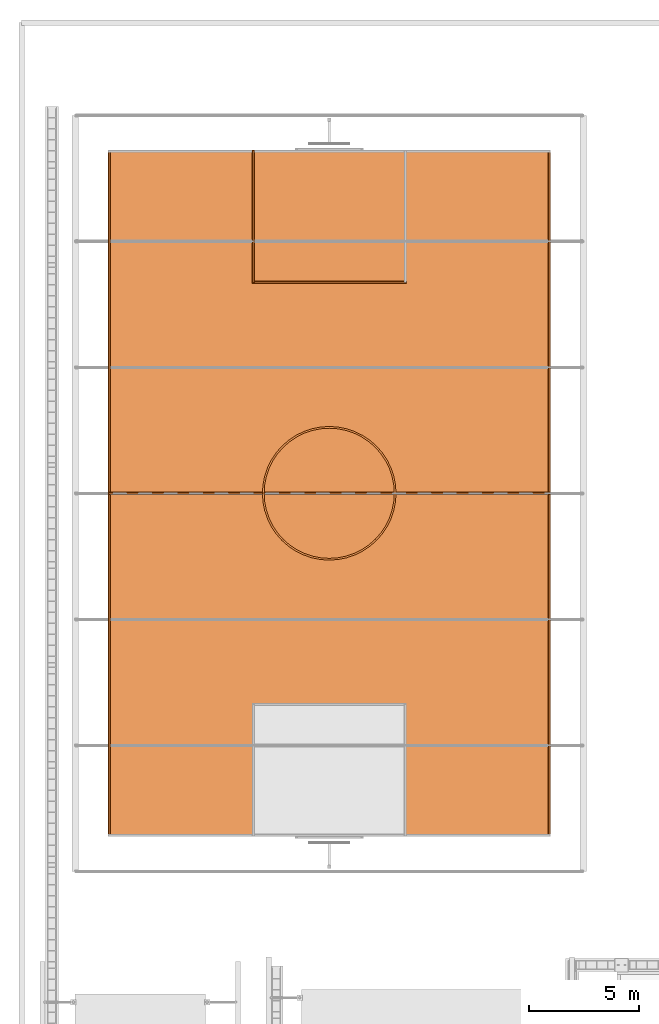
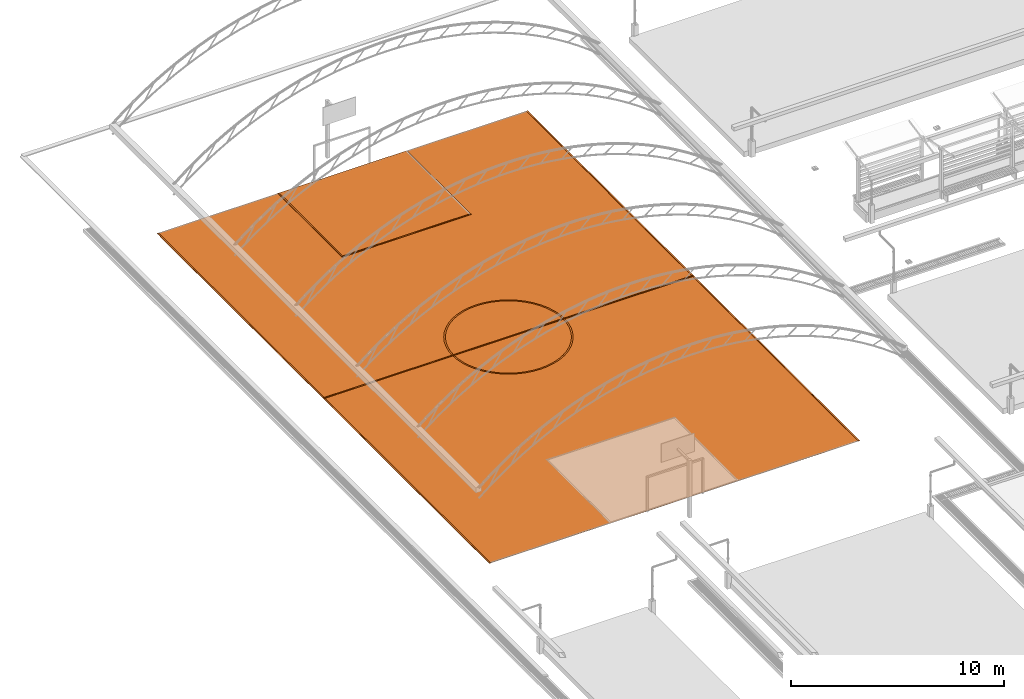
# One storey, part 89 of 90: 8 proxies.
"""IFC2X3 building model written with IfcOpenShell, lengths in metres."""

from ifc_helpers import new_model, si_unit, origin, origin_with_axes, place, context, subcontext, project, spatial, faceted_brep, element, save


model = new_model("IFC2X3")

# Units and contexts
model_context = context("Model", 3, precision=1e-05, world=origin_with_axes())
body_context = subcontext(model_context, "Body", "Model", "MODEL_VIEW")
ifc_project = project(units=[si_unit("LENGTHUNIT", "METRE"), si_unit("AREAUNIT", "SQUARE_METRE"), si_unit("VOLUMEUNIT", "CUBIC_METRE"), si_unit("PLANEANGLEUNIT", "RADIAN")], contexts=[model_context])

# Site, building, storey
site_placement = place(None, origin_with_axes())
site = spatial("IfcSite", under=ifc_project, at=site_placement, Name="Predio Los Mangos - Morales, San Martín", CompositionType="ELEMENT")
building_placement = place(site_placement, origin())
building = spatial("IfcBuilding", under=site, at=building_placement, Name="Hogar de Refugio Temporal", CompositionType="ELEMENT")
storey_placement = place(building_placement, origin())
storey = spatial("IfcBuildingStorey", under=building, at=storey_placement, Name="NIVEL 1 (NPT +0.00)", CompositionType="ELEMENT", Elevation=0.0)

# Proxies
proxy_1_placement = place(storey_placement, origin())
element("IfcBuildingElementProxy", 1, at=proxy_1_placement, inside=storey, Name="cancha", ObjectType="Losa deportiva y vía", context=body_context, shape_type="Brep", body=[
    faceted_brep([(5.0, 94.2, 0.12), (5.0, 125.4, 0.12), (25.1, 125.4, 0.12), (25.1, 94.2, 0.12), (5.0, 94.2, 0.125), (25.1, 94.2, 0.125), (25.1, 125.4, 0.125), (5.0, 125.4, 0.125)], [[[0, 1, 2, 3]], [[4, 5, 6, 7]], [[0, 3, 5, 4]], [[3, 2, 6, 5]], [[2, 1, 7, 6]], [[1, 0, 4, 7]]]),
])
proxy_2_placement = place(storey_placement, origin())
element("IfcBuildingElementProxy", 2, at=proxy_2_placement, inside=storey, Name="linea_cancha", ObjectType="Losa deportiva y vía", context=body_context, shape_type="Brep", body=[
    faceted_brep([(5.0, 94.2, 0.125), (5.0, 125.4, 0.125), (5.08, 125.4, 0.125), (5.08, 94.2, 0.125), (5.0, 94.2, 0.127), (5.08, 94.2, 0.127), (5.08, 125.4, 0.127), (5.0, 125.4, 0.127)], [[[0, 1, 2, 3]], [[4, 5, 6, 7]], [[0, 3, 5, 4]], [[3, 2, 6, 5]], [[2, 1, 7, 6]], [[1, 0, 4, 7]]]),
])
proxy_3_placement = place(storey_placement, origin())
element("IfcBuildingElementProxy", 3, at=proxy_3_placement, inside=storey, Name="linea_cancha", ObjectType="Losa deportiva y vía", context=body_context, shape_type="Brep", body=[
    faceted_brep([(25.02, 94.2, 0.125), (25.02, 125.4, 0.125), (25.1, 125.4, 0.125), (25.1, 94.2, 0.125), (25.02, 94.2, 0.127), (25.1, 94.2, 0.127), (25.1, 125.4, 0.127), (25.02, 125.4, 0.127)], [[[0, 1, 2, 3]], [[4, 5, 6, 7]], [[0, 3, 5, 4]], [[3, 2, 6, 5]], [[2, 1, 7, 6]], [[1, 0, 4, 7]]]),
])
proxy_4_placement = place(storey_placement, origin())
element("IfcBuildingElementProxy", 4, at=proxy_4_placement, inside=storey, Name="linea_cancha", ObjectType="Losa deportiva y vía", context=body_context, shape_type="Brep", body=[
    faceted_brep([(5.0, 109.76, 0.125), (5.0, 109.84, 0.125), (25.1, 109.84, 0.125), (25.1, 109.76, 0.125), (5.0, 109.76, 0.127), (25.1, 109.76, 0.127), (25.1, 109.84, 0.127), (5.0, 109.84, 0.127)], [[[0, 1, 2, 3]], [[4, 5, 6, 7]], [[0, 3, 5, 4]], [[3, 2, 6, 5]], [[2, 1, 7, 6]], [[1, 0, 4, 7]]]),
])
proxy_5_placement = place(storey_placement, origin())
element("IfcBuildingElementProxy", 5, at=proxy_5_placement, inside=storey, Name="Torus", ObjectType="Elemento", context=body_context, shape_type="Brep", body=[
    faceted_brep([(18.09, 109.8, 0.125), (18.064, 110.1968, 0.125), (18.0587, 110.1961, 0.126), (18.0846, 109.8, 0.126), (18.0442, 110.1942, 0.1267), (18.07, 109.8, 0.1267), (18.0243, 110.1916, 0.127), (18.05, 109.8, 0.127), (18.0045, 110.189, 0.1267), (18.03, 109.8, 0.1267), (17.99, 110.1871, 0.126), (18.0154, 109.8, 0.126), (17.9847, 110.1864, 0.125), (18.01, 109.8, 0.125), (17.99, 110.1871, 0.124), (18.0154, 109.8, 0.124), (18.0045, 110.189, 0.1233), (18.03, 109.8, 0.1233), (18.0243, 110.1916, 0.123), (18.05, 109.8, 0.123), (18.0442, 110.1942, 0.1233), (18.07, 109.8, 0.1233), (18.0587, 110.1961, 0.124), (18.0846, 109.8, 0.124), (17.9864, 110.5868, 0.125), (17.9812, 110.5854, 0.126), (17.9671, 110.5816, 0.1267), (17.9478, 110.5765, 0.127), (17.9285, 110.5713, 0.1267), (17.9143, 110.5675, 0.126), (17.9091, 110.5661, 0.125), (17.9143, 110.5675, 0.124), (17.9285, 110.5713, 0.1233), (17.9478, 110.5765, 0.123), (17.9671, 110.5816, 0.1233), (17.9812, 110.5854, 0.124), (17.8586, 110.9634, 0.125), (17.8536, 110.9613, 0.126), (17.8401, 110.9557, 0.1267), (17.8216, 110.9481, 0.127), (17.8032, 110.9404, 0.1267), (17.7896, 110.9348, 0.126), (17.7847, 110.9327, 0.125), (17.7896, 110.9348, 0.124), (17.8032, 110.9404, 0.1233), (17.8216, 110.9481, 0.123), (17.8401, 110.9557, 0.1233), (17.8536, 110.9613, 0.124), (17.6827, 111.32, 0.125), (17.6781, 111.3173, 0.126), (17.6654, 111.31, 0.1267), (17.6481, 111.3, 0.127), (17.6308, 111.29, 0.1267), (17.6181, 111.2827, 0.126), (17.6134, 111.28, 0.125), (17.6181, 111.2827, 0.124), (17.6308, 111.29, 0.1233), (17.6481, 111.3, 0.123), (17.6654, 111.31, 0.1233), (17.6781, 111.3173, 0.124), (17.4618, 111.6506, 0.125), (17.4575, 111.6474, 0.126), (17.4459, 111.6385, 0.1267), (17.4301, 111.6263, 0.127), (17.4142, 111.6141, 0.1267), (17.4026, 111.6052, 0.126), (17.3983, 111.6019, 0.125), (17.4026, 111.6052, 0.124), (17.4142, 111.6141, 0.1233), (17.4301, 111.6263, 0.123), (17.4459, 111.6385, 0.1233), (17.4575, 111.6474, 0.124), (17.1996, 111.9496, 0.125), (17.1958, 111.9458, 0.126), (17.1855, 111.9355, 0.1267), (17.1713, 111.9213, 0.127), (17.1572, 111.9072, 0.1267), (17.1468, 111.8968, 0.126), (17.143, 111.893, 0.125), (17.1468, 111.8968, 0.124), (17.1572, 111.9072, 0.1233), (17.1713, 111.9213, 0.123), (17.1855, 111.9355, 0.1233), (17.1958, 111.9458, 0.124), (16.9006, 112.2118, 0.125), (16.8974, 112.2075, 0.126), (16.8885, 112.1959, 0.1267), (16.8763, 112.1801, 0.127), (16.8641, 112.1642, 0.1267), (16.8552, 112.1526, 0.126), (16.8519, 112.1483, 0.125), (16.8552, 112.1526, 0.124), (16.8641, 112.1642, 0.1233), (16.8763, 112.1801, 0.123), (16.8885, 112.1959, 0.1233), (16.8974, 112.2075, 0.124), (16.57, 112.4327, 0.125), (16.5673, 112.4281, 0.126), (16.56, 112.4154, 0.1267), (16.55, 112.3981, 0.127), (16.54, 112.3808, 0.1267), (16.5327, 112.3681, 0.126), (16.53, 112.3634, 0.125), (16.5327, 112.3681, 0.124), (16.54, 112.3808, 0.1233), (16.55, 112.3981, 0.123), (16.56, 112.4154, 0.1233), (16.5673, 112.4281, 0.124), (16.2134, 112.6086, 0.125), (16.2113, 112.6036, 0.126), (16.2057, 112.5901, 0.1267), (16.1981, 112.5716, 0.127), (16.1904, 112.5532, 0.1267), (16.1848, 112.5396, 0.126), (16.1827, 112.5347, 0.125), (16.1848, 112.5396, 0.124), (16.1904, 112.5532, 0.1233), (16.1981, 112.5716, 0.123), (16.2057, 112.5901, 0.1233), (16.2113, 112.6036, 0.124), (15.8368, 112.7364, 0.125), (15.8354, 112.7312, 0.126), (15.8316, 112.7171, 0.1267), (15.8265, 112.6978, 0.127), (15.8213, 112.6785, 0.1267), (15.8175, 112.6643, 0.126), (15.8161, 112.6591, 0.125), (15.8175, 112.6643, 0.124), (15.8213, 112.6785, 0.1233), (15.8265, 112.6978, 0.123), (15.8316, 112.7171, 0.1233), (15.8354, 112.7312, 0.124), (15.4468, 112.814, 0.125), (15.4461, 112.8087, 0.126), (15.4442, 112.7942, 0.1267), (15.4416, 112.7743, 0.127), (15.439, 112.7545, 0.1267), (15.4371, 112.74, 0.126), (15.4364, 112.7347, 0.125), (15.4371, 112.74, 0.124), (15.439, 112.7545, 0.1233), (15.4416, 112.7743, 0.123), (15.4442, 112.7942, 0.1233), (15.4461, 112.8087, 0.124), (15.05, 112.84, 0.125), (15.05, 112.8346, 0.126), (15.05, 112.82, 0.1267), (15.05, 112.8, 0.127), (15.05, 112.78, 0.1267), (15.05, 112.7654, 0.126), (15.05, 112.76, 0.125), (15.05, 112.7654, 0.124), (15.05, 112.78, 0.1233), (15.05, 112.8, 0.123), (15.05, 112.82, 0.1233), (15.05, 112.8346, 0.124), (14.6532, 112.814, 0.125), (14.6539, 112.8087, 0.126), (14.6558, 112.7942, 0.1267), (14.6584, 112.7743, 0.127), (14.661, 112.7545, 0.1267), (14.6629, 112.74, 0.126), (14.6636, 112.7347, 0.125), (14.6629, 112.74, 0.124), (14.661, 112.7545, 0.1233), (14.6584, 112.7743, 0.123), (14.6558, 112.7942, 0.1233), (14.6539, 112.8087, 0.124), (14.2632, 112.7364, 0.125), (14.2646, 112.7312, 0.126), (14.2684, 112.7171, 0.1267), (14.2735, 112.6978, 0.127), (14.2787, 112.6785, 0.1267), (14.2825, 112.6643, 0.126), (14.2839, 112.6591, 0.125), (14.2825, 112.6643, 0.124), (14.2787, 112.6785, 0.1233), (14.2735, 112.6978, 0.123), (14.2684, 112.7171, 0.1233), (14.2646, 112.7312, 0.124), (13.8866, 112.6086, 0.125), (13.8887, 112.6036, 0.126), (13.8943, 112.5901, 0.1267), (13.9019, 112.5716, 0.127), (13.9096, 112.5532, 0.1267), (13.9152, 112.5396, 0.126), (13.9173, 112.5347, 0.125), (13.9152, 112.5396, 0.124), (13.9096, 112.5532, 0.1233), (13.9019, 112.5716, 0.123), (13.8943, 112.5901, 0.1233), (13.8887, 112.6036, 0.124), (13.53, 112.4327, 0.125), (13.5327, 112.4281, 0.126), (13.54, 112.4154, 0.1267), (13.55, 112.3981, 0.127), (13.56, 112.3808, 0.1267), (13.5673, 112.3681, 0.126), (13.57, 112.3634, 0.125), (13.5673, 112.3681, 0.124), (13.56, 112.3808, 0.1233), (13.55, 112.3981, 0.123), (13.54, 112.4154, 0.1233), (13.5327, 112.4281, 0.124), (13.1994, 112.2118, 0.125), (13.2026, 112.2075, 0.126), (13.2115, 112.1959, 0.1267), (13.2237, 112.1801, 0.127), (13.2359, 112.1642, 0.1267), (13.2448, 112.1526, 0.126), (13.2481, 112.1483, 0.125), (13.2448, 112.1526, 0.124), (13.2359, 112.1642, 0.1233), (13.2237, 112.1801, 0.123), (13.2115, 112.1959, 0.1233), (13.2026, 112.2075, 0.124), (12.9004, 111.9496, 0.125), (12.9042, 111.9458, 0.126), (12.9145, 111.9355, 0.1267), (12.9287, 111.9213, 0.127), (12.9428, 111.9072, 0.1267), (12.9532, 111.8968, 0.126), (12.957, 111.893, 0.125), (12.9532, 111.8968, 0.124), (12.9428, 111.9072, 0.1233), (12.9287, 111.9213, 0.123), (12.9145, 111.9355, 0.1233), (12.9042, 111.9458, 0.124), (12.6382, 111.6506, 0.125), (12.6425, 111.6474, 0.126), (12.6541, 111.6385, 0.1267), (12.6699, 111.6263, 0.127), (12.6858, 111.6141, 0.1267), (12.6974, 111.6052, 0.126), (12.7017, 111.6019, 0.125), (12.6974, 111.6052, 0.124), (12.6858, 111.6141, 0.1233), (12.6699, 111.6263, 0.123), (12.6541, 111.6385, 0.1233), (12.6425, 111.6474, 0.124), (12.4173, 111.32, 0.125), (12.4219, 111.3173, 0.126), (12.4346, 111.31, 0.1267), (12.4519, 111.3, 0.127), (12.4692, 111.29, 0.1267), (12.4819, 111.2827, 0.126), (12.4866, 111.28, 0.125), (12.4819, 111.2827, 0.124), (12.4692, 111.29, 0.1233), (12.4519, 111.3, 0.123), (12.4346, 111.31, 0.1233), (12.4219, 111.3173, 0.124), (12.2414, 110.9634, 0.125), (12.2464, 110.9613, 0.126), (12.2599, 110.9557, 0.1267), (12.2784, 110.9481, 0.127), (12.2968, 110.9404, 0.1267), (12.3104, 110.9348, 0.126), (12.3153, 110.9327, 0.125), (12.3104, 110.9348, 0.124), (12.2968, 110.9404, 0.1233), (12.2784, 110.9481, 0.123), (12.2599, 110.9557, 0.1233), (12.2464, 110.9613, 0.124), (12.1136, 110.5868, 0.125), (12.1188, 110.5854, 0.126), (12.1329, 110.5816, 0.1267), (12.1522, 110.5765, 0.127), (12.1715, 110.5713, 0.1267), (12.1857, 110.5675, 0.126), (12.1909, 110.5661, 0.125), (12.1857, 110.5675, 0.124), (12.1715, 110.5713, 0.1233), (12.1522, 110.5765, 0.123), (12.1329, 110.5816, 0.1233), (12.1188, 110.5854, 0.124), (12.036, 110.1968, 0.125), (12.0413, 110.1961, 0.126), (12.0558, 110.1942, 0.1267), (12.0757, 110.1916, 0.127), (12.0955, 110.189, 0.1267), (12.11, 110.1871, 0.126), (12.1153, 110.1864, 0.125), (12.11, 110.1871, 0.124), (12.0955, 110.189, 0.1233), (12.0757, 110.1916, 0.123), (12.0558, 110.1942, 0.1233), (12.0413, 110.1961, 0.124), (12.01, 109.8, 0.125), (12.0154, 109.8, 0.126), (12.03, 109.8, 0.1267), (12.05, 109.8, 0.127), (12.07, 109.8, 0.1267), (12.0846, 109.8, 0.126), (12.09, 109.8, 0.125), (12.0846, 109.8, 0.124), (12.07, 109.8, 0.1233), (12.05, 109.8, 0.123), (12.03, 109.8, 0.1233), (12.0154, 109.8, 0.124), (12.036, 109.4032, 0.125), (12.0413, 109.4039, 0.126), (12.0558, 109.4058, 0.1267), (12.0757, 109.4084, 0.127), (12.0955, 109.411, 0.1267), (12.11, 109.4129, 0.126), (12.1153, 109.4136, 0.125), (12.11, 109.4129, 0.124), (12.0955, 109.411, 0.1233), (12.0757, 109.4084, 0.123), (12.0558, 109.4058, 0.1233), (12.0413, 109.4039, 0.124), (12.1136, 109.0132, 0.125), (12.1188, 109.0146, 0.126), (12.1329, 109.0184, 0.1267), (12.1522, 109.0235, 0.127), (12.1715, 109.0287, 0.1267), (12.1857, 109.0325, 0.126), (12.1909, 109.0339, 0.125), (12.1857, 109.0325, 0.124), (12.1715, 109.0287, 0.1233), (12.1522, 109.0235, 0.123), (12.1329, 109.0184, 0.1233), (12.1188, 109.0146, 0.124), (12.2414, 108.6367, 0.125), (12.2464, 108.6387, 0.126), (12.2599, 108.6443, 0.1267), (12.2784, 108.652, 0.127), (12.2968, 108.6596, 0.1267), (12.3104, 108.6652, 0.126), (12.3153, 108.6673, 0.125), (12.3104, 108.6652, 0.124), (12.2968, 108.6596, 0.1233), (12.2784, 108.652, 0.123), (12.2599, 108.6443, 0.1233), (12.2464, 108.6387, 0.124), (12.4173, 108.28, 0.125), (12.4219, 108.2827, 0.126), (12.4346, 108.29, 0.1267), (12.4519, 108.3, 0.127), (12.4692, 108.31, 0.1267), (12.4819, 108.3173, 0.126), (12.4866, 108.32, 0.125), (12.4819, 108.3173, 0.124), (12.4692, 108.31, 0.1233), (12.4519, 108.3, 0.123), (12.4346, 108.29, 0.1233), (12.4219, 108.2827, 0.124), (12.6382, 107.9494, 0.125), (12.6425, 107.9526, 0.126), (12.6541, 107.9615, 0.1267), (12.6699, 107.9737, 0.127), (12.6858, 107.9859, 0.1267), (12.6974, 107.9948, 0.126), (12.7017, 107.9981, 0.125), (12.6974, 107.9948, 0.124), (12.6858, 107.9859, 0.1233), (12.6699, 107.9737, 0.123), (12.6541, 107.9615, 0.1233), (12.6425, 107.9526, 0.124), (12.9004, 107.6504, 0.125), (12.9042, 107.6542, 0.126), (12.9145, 107.6645, 0.1267), (12.9287, 107.6787, 0.127), (12.9428, 107.6928, 0.1267), (12.9532, 107.7032, 0.126), (12.957, 107.707, 0.125), (12.9532, 107.7032, 0.124), (12.9428, 107.6928, 0.1233), (12.9287, 107.6787, 0.123), (12.9145, 107.6645, 0.1233), (12.9042, 107.6542, 0.124), (13.1994, 107.3882, 0.125), (13.2026, 107.3925, 0.126), (13.2115, 107.4041, 0.1267), (13.2237, 107.4199, 0.127), (13.2359, 107.4358, 0.1267), (13.2448, 107.4474, 0.126), (13.2481, 107.4517, 0.125), (13.2448, 107.4474, 0.124), (13.2359, 107.4358, 0.1233), (13.2237, 107.4199, 0.123), (13.2115, 107.4041, 0.1233), (13.2026, 107.3925, 0.124), (13.53, 107.1673, 0.125), (13.5327, 107.1719, 0.126), (13.54, 107.1846, 0.1267), (13.55, 107.2019, 0.127), (13.56, 107.2192, 0.1267), (13.5673, 107.2319, 0.126), (13.57, 107.2366, 0.125), (13.5673, 107.2319, 0.124), (13.56, 107.2192, 0.1233), (13.55, 107.2019, 0.123), (13.54, 107.1846, 0.1233), (13.5327, 107.1719, 0.124), (13.8866, 106.9914, 0.125), (13.8887, 106.9964, 0.126), (13.8943, 107.0099, 0.1267), (13.9019, 107.0284, 0.127), (13.9096, 107.0468, 0.1267), (13.9152, 107.0604, 0.126), (13.9173, 107.0653, 0.125), (13.9152, 107.0604, 0.124), (13.9096, 107.0468, 0.1233), (13.9019, 107.0284, 0.123), (13.8943, 107.0099, 0.1233), (13.8887, 106.9964, 0.124), (14.2632, 106.8636, 0.125), (14.2646, 106.8688, 0.126), (14.2684, 106.8829, 0.1267), (14.2735, 106.9022, 0.127), (14.2787, 106.9215, 0.1267), (14.2825, 106.9357, 0.126), (14.2839, 106.9409, 0.125), (14.2825, 106.9357, 0.124), (14.2787, 106.9215, 0.1233), (14.2735, 106.9022, 0.123), (14.2684, 106.8829, 0.1233), (14.2646, 106.8688, 0.124), (14.6532, 106.786, 0.125), (14.6539, 106.7913, 0.126), (14.6558, 106.8058, 0.1267), (14.6584, 106.8257, 0.127), (14.661, 106.8455, 0.1267), (14.6629, 106.86, 0.126), (14.6636, 106.8653, 0.125), (14.6629, 106.86, 0.124), (14.661, 106.8455, 0.1233), (14.6584, 106.8257, 0.123), (14.6558, 106.8058, 0.1233), (14.6539, 106.7913, 0.124), (15.05, 106.76, 0.125), (15.05, 106.7654, 0.126), (15.05, 106.78, 0.1267), (15.05, 106.8, 0.127), (15.05, 106.82, 0.1267), (15.05, 106.8346, 0.126), (15.05, 106.84, 0.125), (15.05, 106.8346, 0.124), (15.05, 106.82, 0.1233), (15.05, 106.8, 0.123), (15.05, 106.78, 0.1233), (15.05, 106.7654, 0.124), (15.4468, 106.786, 0.125), (15.4461, 106.7913, 0.126), (15.4442, 106.8058, 0.1267), (15.4416, 106.8257, 0.127), (15.439, 106.8455, 0.1267), (15.4371, 106.86, 0.126), (15.4364, 106.8653, 0.125), (15.4371, 106.86, 0.124), (15.439, 106.8455, 0.1233), (15.4416, 106.8257, 0.123), (15.4442, 106.8058, 0.1233), (15.4461, 106.7913, 0.124), (15.8368, 106.8636, 0.125), (15.8354, 106.8688, 0.126), (15.8316, 106.8829, 0.1267), (15.8265, 106.9022, 0.127), (15.8213, 106.9215, 0.1267), (15.8175, 106.9357, 0.126), (15.8161, 106.9409, 0.125), (15.8175, 106.9357, 0.124), (15.8213, 106.9215, 0.1233), (15.8265, 106.9022, 0.123), (15.8316, 106.8829, 0.1233), (15.8354, 106.8688, 0.124), (16.2134, 106.9914, 0.125), (16.2113, 106.9964, 0.126), (16.2057, 107.0099, 0.1267), (16.1981, 107.0284, 0.127), (16.1904, 107.0468, 0.1267), (16.1848, 107.0604, 0.126), (16.1827, 107.0653, 0.125), (16.1848, 107.0604, 0.124), (16.1904, 107.0468, 0.1233), (16.1981, 107.0284, 0.123), (16.2057, 107.0099, 0.1233), (16.2113, 106.9964, 0.124), (16.57, 107.1673, 0.125), (16.5673, 107.1719, 0.126), (16.56, 107.1846, 0.1267), (16.55, 107.2019, 0.127), (16.54, 107.2192, 0.1267), (16.5327, 107.2319, 0.126), (16.53, 107.2366, 0.125), (16.5327, 107.2319, 0.124), (16.54, 107.2192, 0.1233), (16.55, 107.2019, 0.123), (16.56, 107.1846, 0.1233), (16.5673, 107.1719, 0.124), (16.9006, 107.3882, 0.125), (16.8974, 107.3925, 0.126), (16.8885, 107.4041, 0.1267), (16.8763, 107.4199, 0.127), (16.8641, 107.4358, 0.1267), (16.8552, 107.4474, 0.126), (16.8519, 107.4517, 0.125), (16.8552, 107.4474, 0.124), (16.8641, 107.4358, 0.1233), (16.8763, 107.4199, 0.123), (16.8885, 107.4041, 0.1233), (16.8974, 107.3925, 0.124), (17.1996, 107.6504, 0.125), (17.1958, 107.6542, 0.126), (17.1855, 107.6645, 0.1267), (17.1713, 107.6787, 0.127), (17.1572, 107.6928, 0.1267), (17.1468, 107.7032, 0.126), (17.143, 107.707, 0.125), (17.1468, 107.7032, 0.124), (17.1572, 107.6928, 0.1233), (17.1713, 107.6787, 0.123), (17.1855, 107.6645, 0.1233), (17.1958, 107.6542, 0.124), (17.4618, 107.9494, 0.125), (17.4575, 107.9526, 0.126), (17.4459, 107.9615, 0.1267), (17.4301, 107.9737, 0.127), (17.4142, 107.9859, 0.1267), (17.4026, 107.9948, 0.126), (17.3983, 107.9981, 0.125), (17.4026, 107.9948, 0.124), (17.4142, 107.9859, 0.1233), (17.4301, 107.9737, 0.123), (17.4459, 107.9615, 0.1233), (17.4575, 107.9526, 0.124), (17.6827, 108.28, 0.125), (17.6781, 108.2827, 0.126), (17.6654, 108.29, 0.1267), (17.6481, 108.3, 0.127), (17.6308, 108.31, 0.1267), (17.6181, 108.3173, 0.126), (17.6134, 108.32, 0.125), (17.6181, 108.3173, 0.124), (17.6308, 108.31, 0.1233), (17.6481, 108.3, 0.123), (17.6654, 108.29, 0.1233), (17.6781, 108.2827, 0.124), (17.8586, 108.6366, 0.125), (17.8536, 108.6387, 0.126), (17.8401, 108.6443, 0.1267), (17.8216, 108.652, 0.127), (17.8032, 108.6596, 0.1267), (17.7896, 108.6652, 0.126), (17.7847, 108.6673, 0.125), (17.7896, 108.6652, 0.124), (17.8032, 108.6596, 0.1233), (17.8216, 108.652, 0.123), (17.8401, 108.6443, 0.1233), (17.8536, 108.6387, 0.124), (17.9864, 109.0132, 0.125), (17.9812, 109.0146, 0.126), (17.9671, 109.0184, 0.1267), (17.9478, 109.0235, 0.127), (17.9285, 109.0287, 0.1267), (17.9143, 109.0325, 0.126), (17.9091, 109.0339, 0.125), (17.9143, 109.0325, 0.124), (17.9285, 109.0287, 0.1233), (17.9478, 109.0235, 0.123), (17.9671, 109.0184, 0.1233), (17.9812, 109.0146, 0.124), (18.064, 109.4032, 0.125), (18.0587, 109.4039, 0.126), (18.0442, 109.4058, 0.1267), (18.0243, 109.4084, 0.127), (18.0045, 109.411, 0.1267), (17.99, 109.4129, 0.126), (17.9847, 109.4136, 0.125), (17.99, 109.4129, 0.124), (18.0045, 109.411, 0.1233), (18.0243, 109.4084, 0.123), (18.0442, 109.4058, 0.1233), (18.0587, 109.4039, 0.124)], [[[0, 1, 2, 3]], [[3, 2, 4, 5]], [[5, 4, 6, 7]], [[7, 6, 8, 9]], [[9, 8, 10, 11]], [[11, 10, 12, 13]], [[13, 12, 14, 15]], [[15, 14, 16, 17]], [[17, 16, 18, 19]], [[19, 18, 20, 21]], [[21, 20, 22, 23]], [[23, 22, 1, 0]], [[1, 24, 25, 2]], [[2, 25, 26, 4]], [[4, 26, 27, 6]], [[6, 27, 28, 8]], [[8, 28, 29, 10]], [[10, 29, 30, 12]], [[12, 30, 31, 14]], [[14, 31, 32, 16]], [[16, 32, 33, 18]], [[18, 33, 34, 20]], [[20, 34, 35, 22]], [[22, 35, 24, 1]], [[24, 36, 37, 25]], [[25, 37, 38, 26]], [[26, 38, 39, 27]], [[27, 39, 40, 28]], [[28, 40, 41, 29]], [[29, 41, 42, 30]], [[30, 42, 43, 31]], [[31, 43, 44, 32]], [[32, 44, 45, 33]], [[33, 45, 46, 34]], [[34, 46, 47, 35]], [[35, 47, 36, 24]], [[36, 48, 49, 37]], [[37, 49, 50, 38]], [[38, 50, 51, 39]], [[39, 51, 52, 40]], [[40, 52, 53, 41]], [[41, 53, 54, 42]], [[42, 54, 55, 43]], [[43, 55, 56, 44]], [[44, 56, 57, 45]], [[45, 57, 58, 46]], [[46, 58, 59, 47]], [[47, 59, 48, 36]], [[48, 60, 61, 49]], [[49, 61, 62, 50]], [[50, 62, 63, 51]], [[51, 63, 64, 52]], [[52, 64, 65, 53]], [[53, 65, 66, 54]], [[54, 66, 67, 55]], [[55, 67, 68, 56]], [[56, 68, 69, 57]], [[57, 69, 70, 58]], [[58, 70, 71, 59]], [[59, 71, 60, 48]], [[60, 72, 73, 61]], [[61, 73, 74, 62]], [[62, 74, 75, 63]], [[63, 75, 76, 64]], [[64, 76, 77, 65]], [[65, 77, 78, 66]], [[66, 78, 79, 67]], [[67, 79, 80, 68]], [[68, 80, 81, 69]], [[69, 81, 82, 70]], [[70, 82, 83, 71]], [[71, 83, 72, 60]], [[72, 84, 85, 73]], [[73, 85, 86, 74]], [[74, 86, 87, 75]], [[75, 87, 88, 76]], [[76, 88, 89, 77]], [[77, 89, 90, 78]], [[78, 90, 91, 79]], [[79, 91, 92, 80]], [[80, 92, 93, 81]], [[81, 93, 94, 82]], [[82, 94, 95, 83]], [[83, 95, 84, 72]], [[84, 96, 97, 85]], [[85, 97, 98, 86]], [[86, 98, 99, 87]], [[87, 99, 100, 88]], [[88, 100, 101, 89]], [[89, 101, 102, 90]], [[90, 102, 103, 91]], [[91, 103, 104, 92]], [[92, 104, 105, 93]], [[93, 105, 106, 94]], [[94, 106, 107, 95]], [[95, 107, 96, 84]], [[96, 108, 109, 97]], [[97, 109, 110, 98]], [[98, 110, 111, 99]], [[99, 111, 112, 100]], [[100, 112, 113, 101]], [[101, 113, 114, 102]], [[102, 114, 115, 103]], [[103, 115, 116, 104]], [[104, 116, 117, 105]], [[105, 117, 118, 106]], [[106, 118, 119, 107]], [[107, 119, 108, 96]], [[108, 120, 121, 109]], [[109, 121, 122, 110]], [[110, 122, 123, 111]], [[111, 123, 124, 112]], [[112, 124, 125, 113]], [[113, 125, 126, 114]], [[114, 126, 127, 115]], [[115, 127, 128, 116]], [[116, 128, 129, 117]], [[117, 129, 130, 118]], [[118, 130, 131, 119]], [[119, 131, 120, 108]], [[120, 132, 133, 121]], [[121, 133, 134, 122]], [[122, 134, 135, 123]], [[123, 135, 136, 124]], [[124, 136, 137, 125]], [[125, 137, 138, 126]], [[126, 138, 139, 127]], [[127, 139, 140, 128]], [[128, 140, 141, 129]], [[129, 141, 142, 130]], [[130, 142, 143, 131]], [[131, 143, 132, 120]], [[132, 144, 145, 133]], [[133, 145, 146, 134]], [[134, 146, 147, 135]], [[135, 147, 148, 136]], [[136, 148, 149, 137]], [[137, 149, 150, 138]], [[138, 150, 151, 139]], [[139, 151, 152, 140]], [[140, 152, 153, 141]], [[141, 153, 154, 142]], [[142, 154, 155, 143]], [[143, 155, 144, 132]], [[144, 156, 157, 145]], [[145, 157, 158, 146]], [[146, 158, 159, 147]], [[147, 159, 160, 148]], [[148, 160, 161, 149]], [[149, 161, 162, 150]], [[150, 162, 163, 151]], [[151, 163, 164, 152]], [[152, 164, 165, 153]], [[153, 165, 166, 154]], [[154, 166, 167, 155]], [[155, 167, 156, 144]], [[156, 168, 169, 157]], [[157, 169, 170, 158]], [[158, 170, 171, 159]], [[159, 171, 172, 160]], [[160, 172, 173, 161]], [[161, 173, 174, 162]], [[162, 174, 175, 163]], [[163, 175, 176, 164]], [[164, 176, 177, 165]], [[165, 177, 178, 166]], [[166, 178, 179, 167]], [[167, 179, 168, 156]], [[168, 180, 181, 169]], [[169, 181, 182, 170]], [[170, 182, 183, 171]], [[171, 183, 184, 172]], [[172, 184, 185, 173]], [[173, 185, 186, 174]], [[174, 186, 187, 175]], [[175, 187, 188, 176]], [[176, 188, 189, 177]], [[177, 189, 190, 178]], [[178, 190, 191, 179]], [[179, 191, 180, 168]], [[180, 192, 193, 181]], [[181, 193, 194, 182]], [[182, 194, 195, 183]], [[183, 195, 196, 184]], [[184, 196, 197, 185]], [[185, 197, 198, 186]], [[186, 198, 199, 187]], [[187, 199, 200, 188]], [[188, 200, 201, 189]], [[189, 201, 202, 190]], [[190, 202, 203, 191]], [[191, 203, 192, 180]], [[192, 204, 205, 193]], [[193, 205, 206, 194]], [[194, 206, 207, 195]], [[195, 207, 208, 196]], [[196, 208, 209, 197]], [[197, 209, 210, 198]], [[198, 210, 211, 199]], [[199, 211, 212, 200]], [[200, 212, 213, 201]], [[201, 213, 214, 202]], [[202, 214, 215, 203]], [[203, 215, 204, 192]], [[204, 216, 217, 205]], [[205, 217, 218, 206]], [[206, 218, 219, 207]], [[207, 219, 220, 208]], [[208, 220, 221, 209]], [[209, 221, 222, 210]], [[210, 222, 223, 211]], [[211, 223, 224, 212]], [[212, 224, 225, 213]], [[213, 225, 226, 214]], [[214, 226, 227, 215]], [[215, 227, 216, 204]], [[216, 228, 229, 217]], [[217, 229, 230, 218]], [[218, 230, 231, 219]], [[219, 231, 232, 220]], [[220, 232, 233, 221]], [[221, 233, 234, 222]], [[222, 234, 235, 223]], [[223, 235, 236, 224]], [[224, 236, 237, 225]], [[225, 237, 238, 226]], [[226, 238, 239, 227]], [[227, 239, 228, 216]], [[228, 240, 241, 229]], [[229, 241, 242, 230]], [[230, 242, 243, 231]], [[231, 243, 244, 232]], [[232, 244, 245, 233]], [[233, 245, 246, 234]], [[234, 246, 247, 235]], [[235, 247, 248, 236]], [[236, 248, 249, 237]], [[237, 249, 250, 238]], [[238, 250, 251, 239]], [[239, 251, 240, 228]], [[240, 252, 253, 241]], [[241, 253, 254, 242]], [[242, 254, 255, 243]], [[243, 255, 256, 244]], [[244, 256, 257, 245]], [[245, 257, 258, 246]], [[246, 258, 259, 247]], [[247, 259, 260, 248]], [[248, 260, 261, 249]], [[249, 261, 262, 250]], [[250, 262, 263, 251]], [[251, 263, 252, 240]], [[252, 264, 265, 253]], [[253, 265, 266, 254]], [[254, 266, 267, 255]], [[255, 267, 268, 256]], [[256, 268, 269, 257]], [[257, 269, 270, 258]], [[258, 270, 271, 259]], [[259, 271, 272, 260]], [[260, 272, 273, 261]], [[261, 273, 274, 262]], [[262, 274, 275, 263]], [[263, 275, 264, 252]], [[264, 276, 277, 265]], [[265, 277, 278, 266]], [[266, 278, 279, 267]], [[267, 279, 280, 268]], [[268, 280, 281, 269]], [[269, 281, 282, 270]], [[270, 282, 283, 271]], [[271, 283, 284, 272]], [[272, 284, 285, 273]], [[273, 285, 286, 274]], [[274, 286, 287, 275]], [[275, 287, 276, 264]], [[276, 288, 289, 277]], [[277, 289, 290, 278]], [[278, 290, 291, 279]], [[279, 291, 292, 280]], [[280, 292, 293, 281]], [[281, 293, 294, 282]], [[282, 294, 295, 283]], [[283, 295, 296, 284]], [[284, 296, 297, 285]], [[285, 297, 298, 286]], [[286, 298, 299, 287]], [[287, 299, 288, 276]], [[288, 300, 301, 289]], [[289, 301, 302, 290]], [[290, 302, 303, 291]], [[291, 303, 304, 292]], [[292, 304, 305, 293]], [[293, 305, 306, 294]], [[294, 306, 307, 295]], [[295, 307, 308, 296]], [[296, 308, 309, 297]], [[297, 309, 310, 298]], [[298, 310, 311, 299]], [[299, 311, 300, 288]], [[300, 312, 313, 301]], [[301, 313, 314, 302]], [[302, 314, 315, 303]], [[303, 315, 316, 304]], [[304, 316, 317, 305]], [[305, 317, 318, 306]], [[306, 318, 319, 307]], [[307, 319, 320, 308]], [[308, 320, 321, 309]], [[309, 321, 322, 310]], [[310, 322, 323, 311]], [[311, 323, 312, 300]], [[312, 324, 325, 313]], [[313, 325, 326, 314]], [[314, 326, 327, 315]], [[315, 327, 328, 316]], [[316, 328, 329, 317]], [[317, 329, 330, 318]], [[318, 330, 331, 319]], [[319, 331, 332, 320]], [[320, 332, 333, 321]], [[321, 333, 334, 322]], [[322, 334, 335, 323]], [[323, 335, 324, 312]], [[324, 336, 337, 325]], [[325, 337, 338, 326]], [[326, 338, 339, 327]], [[327, 339, 340, 328]], [[328, 340, 341, 329]], [[329, 341, 342, 330]], [[330, 342, 343, 331]], [[331, 343, 344, 332]], [[332, 344, 345, 333]], [[333, 345, 346, 334]], [[334, 346, 347, 335]], [[335, 347, 336, 324]], [[336, 348, 349, 337]], [[337, 349, 350, 338]], [[338, 350, 351, 339]], [[339, 351, 352, 340]], [[340, 352, 353, 341]], [[341, 353, 354, 342]], [[342, 354, 355, 343]], [[343, 355, 356, 344]], [[344, 356, 357, 345]], [[345, 357, 358, 346]], [[346, 358, 359, 347]], [[347, 359, 348, 336]], [[348, 360, 361, 349]], [[349, 361, 362, 350]], [[350, 362, 363, 351]], [[351, 363, 364, 352]], [[352, 364, 365, 353]], [[353, 365, 366, 354]], [[354, 366, 367, 355]], [[355, 367, 368, 356]], [[356, 368, 369, 357]], [[357, 369, 370, 358]], [[358, 370, 371, 359]], [[359, 371, 360, 348]], [[360, 372, 373, 361]], [[361, 373, 374, 362]], [[362, 374, 375, 363]], [[363, 375, 376, 364]], [[364, 376, 377, 365]], [[365, 377, 378, 366]], [[366, 378, 379, 367]], [[367, 379, 380, 368]], [[368, 380, 381, 369]], [[369, 381, 382, 370]], [[370, 382, 383, 371]], [[371, 383, 372, 360]], [[372, 384, 385, 373]], [[373, 385, 386, 374]], [[374, 386, 387, 375]], [[375, 387, 388, 376]], [[376, 388, 389, 377]], [[377, 389, 390, 378]], [[378, 390, 391, 379]], [[379, 391, 392, 380]], [[380, 392, 393, 381]], [[381, 393, 394, 382]], [[382, 394, 395, 383]], [[383, 395, 384, 372]], [[384, 396, 397, 385]], [[385, 397, 398, 386]], [[386, 398, 399, 387]], [[387, 399, 400, 388]], [[388, 400, 401, 389]], [[389, 401, 402, 390]], [[390, 402, 403, 391]], [[391, 403, 404, 392]], [[392, 404, 405, 393]], [[393, 405, 406, 394]], [[394, 406, 407, 395]], [[395, 407, 396, 384]], [[396, 408, 409, 397]], [[397, 409, 410, 398]], [[398, 410, 411, 399]], [[399, 411, 412, 400]], [[400, 412, 413, 401]], [[401, 413, 414, 402]], [[402, 414, 415, 403]], [[403, 415, 416, 404]], [[404, 416, 417, 405]], [[405, 417, 418, 406]], [[406, 418, 419, 407]], [[407, 419, 408, 396]], [[408, 420, 421, 409]], [[409, 421, 422, 410]], [[410, 422, 423, 411]], [[411, 423, 424, 412]], [[412, 424, 425, 413]], [[413, 425, 426, 414]], [[414, 426, 427, 415]], [[415, 427, 428, 416]], [[416, 428, 429, 417]], [[417, 429, 430, 418]], [[418, 430, 431, 419]], [[419, 431, 420, 408]], [[420, 432, 433, 421]], [[421, 433, 434, 422]], [[422, 434, 435, 423]], [[423, 435, 436, 424]], [[424, 436, 437, 425]], [[425, 437, 438, 426]], [[426, 438, 439, 427]], [[427, 439, 440, 428]], [[428, 440, 441, 429]], [[429, 441, 442, 430]], [[430, 442, 443, 431]], [[431, 443, 432, 420]], [[432, 444, 445, 433]], [[433, 445, 446, 434]], [[434, 446, 447, 435]], [[435, 447, 448, 436]], [[436, 448, 449, 437]], [[437, 449, 450, 438]], [[438, 450, 451, 439]], [[439, 451, 452, 440]], [[440, 452, 453, 441]], [[441, 453, 454, 442]], [[442, 454, 455, 443]], [[443, 455, 444, 432]], [[444, 456, 457, 445]], [[445, 457, 458, 446]], [[446, 458, 459, 447]], [[447, 459, 460, 448]], [[448, 460, 461, 449]], [[449, 461, 462, 450]], [[450, 462, 463, 451]], [[451, 463, 464, 452]], [[452, 464, 465, 453]], [[453, 465, 466, 454]], [[454, 466, 467, 455]], [[455, 467, 456, 444]], [[456, 468, 469, 457]], [[457, 469, 470, 458]], [[458, 470, 471, 459]], [[459, 471, 472, 460]], [[460, 472, 473, 461]], [[461, 473, 474, 462]], [[462, 474, 475, 463]], [[463, 475, 476, 464]], [[464, 476, 477, 465]], [[465, 477, 478, 466]], [[466, 478, 479, 467]], [[467, 479, 468, 456]], [[468, 480, 481, 469]], [[469, 481, 482, 470]], [[470, 482, 483, 471]], [[471, 483, 484, 472]], [[472, 484, 485, 473]], [[473, 485, 486, 474]], [[474, 486, 487, 475]], [[475, 487, 488, 476]], [[476, 488, 489, 477]], [[477, 489, 490, 478]], [[478, 490, 491, 479]], [[479, 491, 480, 468]], [[480, 492, 493, 481]], [[481, 493, 494, 482]], [[482, 494, 495, 483]], [[483, 495, 496, 484]], [[484, 496, 497, 485]], [[485, 497, 498, 486]], [[486, 498, 499, 487]], [[487, 499, 500, 488]], [[488, 500, 501, 489]], [[489, 501, 502, 490]], [[490, 502, 503, 491]], [[491, 503, 492, 480]], [[492, 504, 505, 493]], [[493, 505, 506, 494]], [[494, 506, 507, 495]], [[495, 507, 508, 496]], [[496, 508, 509, 497]], [[497, 509, 510, 498]], [[498, 510, 511, 499]], [[499, 511, 512, 500]], [[500, 512, 513, 501]], [[501, 513, 514, 502]], [[502, 514, 515, 503]], [[503, 515, 504, 492]], [[504, 516, 517, 505]], [[505, 517, 518, 506]], [[506, 518, 519, 507]], [[507, 519, 520, 508]], [[508, 520, 521, 509]], [[509, 521, 522, 510]], [[510, 522, 523, 511]], [[511, 523, 524, 512]], [[512, 524, 525, 513]], [[513, 525, 526, 514]], [[514, 526, 527, 515]], [[515, 527, 516, 504]], [[516, 528, 529, 517]], [[517, 529, 530, 518]], [[518, 530, 531, 519]], [[519, 531, 532, 520]], [[520, 532, 533, 521]], [[521, 533, 534, 522]], [[522, 534, 535, 523]], [[523, 535, 536, 524]], [[524, 536, 537, 525]], [[525, 537, 538, 526]], [[526, 538, 539, 527]], [[527, 539, 528, 516]], [[528, 540, 541, 529]], [[529, 541, 542, 530]], [[530, 542, 543, 531]], [[531, 543, 544, 532]], [[532, 544, 545, 533]], [[533, 545, 546, 534]], [[534, 546, 547, 535]], [[535, 547, 548, 536]], [[536, 548, 549, 537]], [[537, 549, 550, 538]], [[538, 550, 551, 539]], [[539, 551, 540, 528]], [[540, 552, 553, 541]], [[541, 553, 554, 542]], [[542, 554, 555, 543]], [[543, 555, 556, 544]], [[544, 556, 557, 545]], [[545, 557, 558, 546]], [[546, 558, 559, 547]], [[547, 559, 560, 548]], [[548, 560, 561, 549]], [[549, 561, 562, 550]], [[550, 562, 563, 551]], [[551, 563, 552, 540]], [[552, 564, 565, 553]], [[553, 565, 566, 554]], [[554, 566, 567, 555]], [[555, 567, 568, 556]], [[556, 568, 569, 557]], [[557, 569, 570, 558]], [[558, 570, 571, 559]], [[559, 571, 572, 560]], [[560, 572, 573, 561]], [[561, 573, 574, 562]], [[562, 574, 575, 563]], [[563, 575, 564, 552]], [[564, 0, 3, 565]], [[565, 3, 5, 566]], [[566, 5, 7, 567]], [[567, 7, 9, 568]], [[568, 9, 11, 569]], [[569, 11, 13, 570]], [[570, 13, 15, 571]], [[571, 15, 17, 572]], [[572, 17, 19, 573]], [[573, 19, 21, 574]], [[574, 21, 23, 575]], [[575, 23, 0, 564]]]),
])
proxy_6_placement = place(storey_placement, origin())
element("IfcBuildingElementProxy", 6, at=proxy_6_placement, inside=storey, Name="area", ObjectType="Losa deportiva y vía", context=body_context, shape_type="Brep", body=[
    faceted_brep([(11.55, 119.4, 0.125), (11.55, 125.4, 0.125), (18.55, 125.4, 0.125), (18.55, 119.4, 0.125), (11.55, 119.4, 0.127), (18.55, 119.4, 0.127), (18.55, 125.4, 0.127), (11.55, 125.4, 0.127)], [[[0, 1, 2, 3]], [[4, 5, 6, 7]], [[0, 3, 5, 4]], [[3, 2, 6, 5]], [[2, 1, 7, 6]], [[1, 0, 4, 7]]]),
])
proxy_7_placement = place(storey_placement, origin())
element("IfcBuildingElementProxy", 7, at=proxy_7_placement, inside=storey, Name="linea_area", ObjectType="Losa deportiva y vía", context=body_context, shape_type="Brep", body=[
    faceted_brep([(11.55, 119.4, 0.127), (11.55, 125.4, 0.127), (11.63, 125.4, 0.127), (11.63, 119.4, 0.127), (11.55, 119.4, 0.129), (11.63, 119.4, 0.129), (11.63, 125.4, 0.129), (11.55, 125.4, 0.129)], [[[0, 1, 2, 3]], [[4, 5, 6, 7]], [[0, 3, 5, 4]], [[3, 2, 6, 5]], [[2, 1, 7, 6]], [[1, 0, 4, 7]]]),
])
proxy_8_placement = place(storey_placement, origin())
element("IfcBuildingElementProxy", 8, at=proxy_8_placement, inside=storey, Name="linea_area", ObjectType="Losa deportiva y vía", context=body_context, shape_type="Brep", body=[
    faceted_brep([(11.55, 119.36, 0.127), (11.55, 119.44, 0.127), (18.55, 119.44, 0.127), (18.55, 119.36, 0.127), (11.55, 119.36, 0.129), (18.55, 119.36, 0.129), (18.55, 119.44, 0.129), (11.55, 119.44, 0.129)], [[[0, 1, 2, 3]], [[4, 5, 6, 7]], [[0, 3, 5, 4]], [[3, 2, 6, 5]], [[2, 1, 7, 6]], [[1, 0, 4, 7]]]),
])

save(model, "model.ifc")
